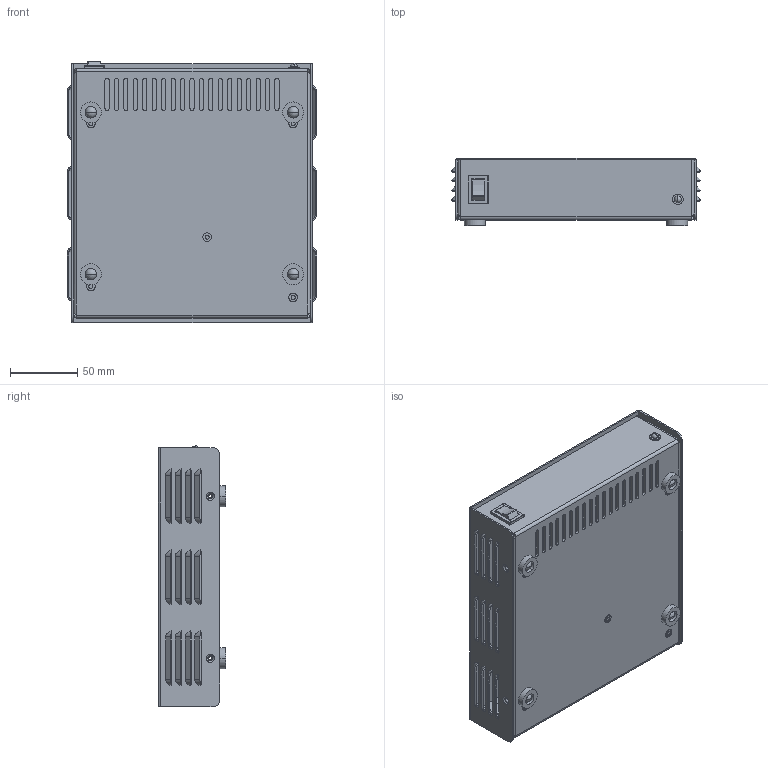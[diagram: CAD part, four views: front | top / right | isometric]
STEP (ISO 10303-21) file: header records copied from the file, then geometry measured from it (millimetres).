
FILE_DESCRIPTION(('Creo Elements/Direct Modeling STEP Export'),'2;1');
FILE_NAME('enc.stp','2016-09-08T15:27:08',(''),(''),'PTC Creo Elements/Direct Modeling STEP processor for AP214 (Solid Model)','PTC Creo Elements/Direct Modeling 19.0 09-May-2014 (C) Parametric Technology GmbH','');
FILE_SCHEMA(('AUTOMOTIVE_DESIGN { 1 0 10303 214 1 1 1 1 }'));
Length unit declared in the file: millimetre
Products named in the file (30): ENC-D-0621-CASE_4_1_1.PRT; SKIN_GROUP9_5_1.PRT; SKIN_GROUP8_4_1.PRT; SKIN_GROUP11_4_1.PRT; SKIN_GROUP12_4_1.PRT; SKIN_GROUP10_4_1.PRT; ENC-D-0621_ASM_2_1_ASM_1.ASM; ENP-MYLAR_1_1_1.PRT; ___7_1_1.PRT; VR_1_5_1_1.PRT; SKIN_GROUP36_4_1_1.PRT; SKIN_GROUP35_4_1_1.PRT; SKIN_GROUP34_4_1_1.PRT; SKIN_GROUP33_4_1_1.PRT; SKIN_GROUP32_4_1_1.PRT; ___1_ASM_5_1_ASM_1.ASM; MT300-750-1_10_1_1.PRT; MT300-750-2_9_1_1.PRT; M300-500_ASM_3_1_ASM_1.ASM; SKIN_GROUP15_5_1_1.PRT; SKIN_GROUP16_5_1_1.PRT; SKIN_GROUP14_5_1_1.PRT; SKIN_GROUP13_5_1_1.PRT; ___4_ASM_10_1_ASM_1.ASM; PCBB_ASM_17_1_ASM_1.ASM; ___5_5_1_1.PRT; LED_3_1_1.PRT; ENP-240_ASM_128_1_ASM_1.ASM; ENC_ASM_1.ASM; ENC.stp
Assembly tree (32 placements, depth 6):
  ENC.stp
    ENC_ASM_1.ASM
      ENP-240_ASM_128_1_ASM_1.ASM
        LED_3_1_1.PRT
        ___5_5_1_1.PRT
        PCBB_ASM_17_1_ASM_1.ASM
          ___4_ASM_10_1_ASM_1.ASM
            SKIN_GROUP13_5_1_1.PRT
            SKIN_GROUP14_5_1_1.PRT
            SKIN_GROUP16_5_1_1.PRT
            SKIN_GROUP15_5_1_1.PRT
          M300-500_ASM_3_1_ASM_1.ASM
            MT300-750-2_9_1_1.PRT  x4
            MT300-750-1_10_1_1.PRT
          ___1_ASM_5_1_ASM_1.ASM
            SKIN_GROUP32_4_1_1.PRT
            SKIN_GROUP33_4_1_1.PRT
            SKIN_GROUP34_4_1_1.PRT
            SKIN_GROUP35_4_1_1.PRT
            SKIN_GROUP36_4_1_1.PRT
          VR_1_5_1_1.PRT
          ___7_1_1.PRT
        ENP-MYLAR_1_1_1.PRT
        ENC-D-0621_ASM_2_1_ASM_1.ASM
          SKIN_GROUP10_4_1.PRT
          SKIN_GROUP12_4_1.PRT
          SKIN_GROUP11_4_1.PRT
          SKIN_GROUP8_4_1.PRT
          SKIN_GROUP9_5_1.PRT
          ENC-D-0621-CASE_4_1_1.PRT
Bounding box: 184.81 x 49.8 x 193.9 mm (x, y, z)
Volume: 184326.9 mm3; surface area: 229249.1 mm2
Topology: 24 solids, 24 shells, 951 faces, 2239 edges, 1336 vertices
Faces by surface type: plane 407, cylinder 383, bspline 56, sphere 54, cone 28, torus 23
Entity records: 25548 total; most frequent: CARTESIAN_POINT 6278, ORIENTED_EDGE 3852, DIRECTION 3694, EDGE_CURVE 1926, AXIS2_PLACEMENT_3D 1279, VERTEX_POINT 1192, VECTOR 1136, LINE 1136
